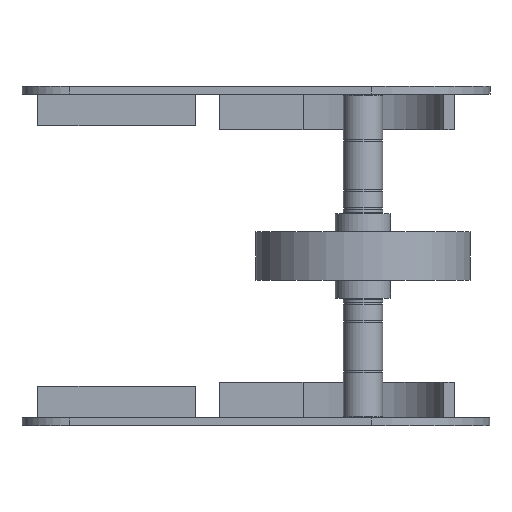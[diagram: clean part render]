
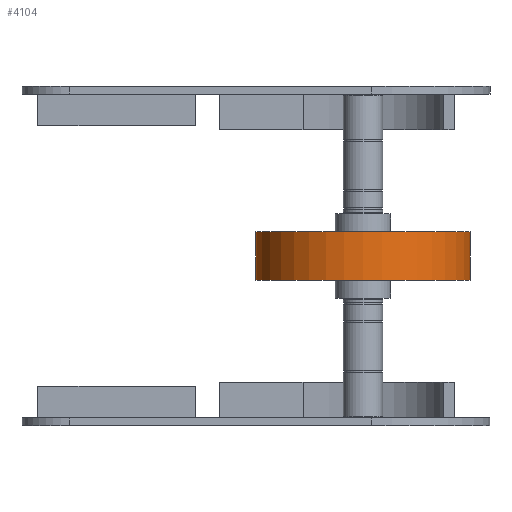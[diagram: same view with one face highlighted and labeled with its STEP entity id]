
A CAD part, front view. The second image highlights one B-rep face of the part: STEP entity #4104.
In plain terms, the highlighted cylindrical face has radius 68 mm (diameter 136 mm), a partial arc.
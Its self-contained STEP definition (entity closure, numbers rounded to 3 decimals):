
#40 = DIRECTION ( 'NONE',  ( 0., 0., 1. ) ) ;
#53 = CYLINDRICAL_SURFACE ( 'NONE', #6000, 68. ) ;
#156 = ORIENTED_EDGE ( 'NONE', *, *, #6645, .T. ) ;
#475 = CARTESIAN_POINT ( 'NONE',  ( 68., 0., 0. ) ) ;
#534 = CARTESIAN_POINT ( 'NONE',  ( -68., 0., 0. ) ) ;
#1261 = CARTESIAN_POINT ( 'NONE',  ( 0., 0., 31. ) ) ;
#1817 = DIRECTION ( 'NONE',  ( 0., 0., -1. ) ) ;
#1852 = VERTEX_POINT ( 'NONE', #534 ) ;
#1856 = CARTESIAN_POINT ( 'NONE',  ( 0., 0., 31. ) ) ;
#1859 = LINE ( 'NONE', #5312, #6535 ) ;
#1911 = ORIENTED_EDGE ( 'NONE', *, *, #3432, .T. ) ;
#2145 = CARTESIAN_POINT ( 'NONE',  ( -68., 0., 31. ) ) ;
#2657 = CIRCLE ( 'NONE', #4189, 68. ) ;
#2818 = FACE_OUTER_BOUND ( 'NONE', #5751, .T. ) ;
#2917 = CARTESIAN_POINT ( 'NONE',  ( 68., 0., 31. ) ) ;
#3022 = ORIENTED_EDGE ( 'NONE', *, *, #3442, .F. ) ;
#3432 = EDGE_CURVE ( 'NONE', #1852, #5515, #2657, .T. ) ;
#3442 = EDGE_CURVE ( 'NONE', #4316, #3926, #7294, .T. ) ;
#3926 = VERTEX_POINT ( 'NONE', #2917 ) ;
#4104 = ADVANCED_FACE ( 'NONE', ( #2818 ), #53, .T. ) ;
#4188 = DIRECTION ( 'NONE',  ( 1., 0., 0. ) ) ;
#4189 = AXIS2_PLACEMENT_3D ( 'NONE', #4731, #40, #4188 ) ;
#4316 = VERTEX_POINT ( 'NONE', #2145 ) ;
#4603 = CARTESIAN_POINT ( 'NONE',  ( -68., 0., 31. ) ) ;
#4731 = CARTESIAN_POINT ( 'NONE',  ( 0., 0., 0. ) ) ;
#4878 = AXIS2_PLACEMENT_3D ( 'NONE', #1856, #5307, #5925 ) ;
#4930 = LINE ( 'NONE', #4603, #6672 ) ;
#5307 = DIRECTION ( 'NONE',  ( 0., 0., 1. ) ) ;
#5312 = CARTESIAN_POINT ( 'NONE',  ( 68., 0., 31. ) ) ;
#5324 = DIRECTION ( 'NONE',  ( -1., 0., 0. ) ) ;
#5515 = VERTEX_POINT ( 'NONE', #475 ) ;
#5751 = EDGE_LOOP ( 'NONE', ( #6049, #3022, #156, #1911 ) ) ;
#5925 = DIRECTION ( 'NONE',  ( 1., 0., 0. ) ) ;
#6000 = AXIS2_PLACEMENT_3D ( 'NONE', #1261, #7060, #5324 ) ;
#6049 = ORIENTED_EDGE ( 'NONE', *, *, #6324, .F. ) ;
#6324 = EDGE_CURVE ( 'NONE', #3926, #5515, #1859, .T. ) ;
#6326 = DIRECTION ( 'NONE',  ( 0., 0., -1. ) ) ;
#6535 = VECTOR ( 'NONE', #1817, 1000. ) ;
#6645 = EDGE_CURVE ( 'NONE', #4316, #1852, #4930, .T. ) ;
#6672 = VECTOR ( 'NONE', #6326, 1000. ) ;
#7060 = DIRECTION ( 'NONE',  ( 0., 0., -1. ) ) ;
#7294 = CIRCLE ( 'NONE', #4878, 68. ) ;
